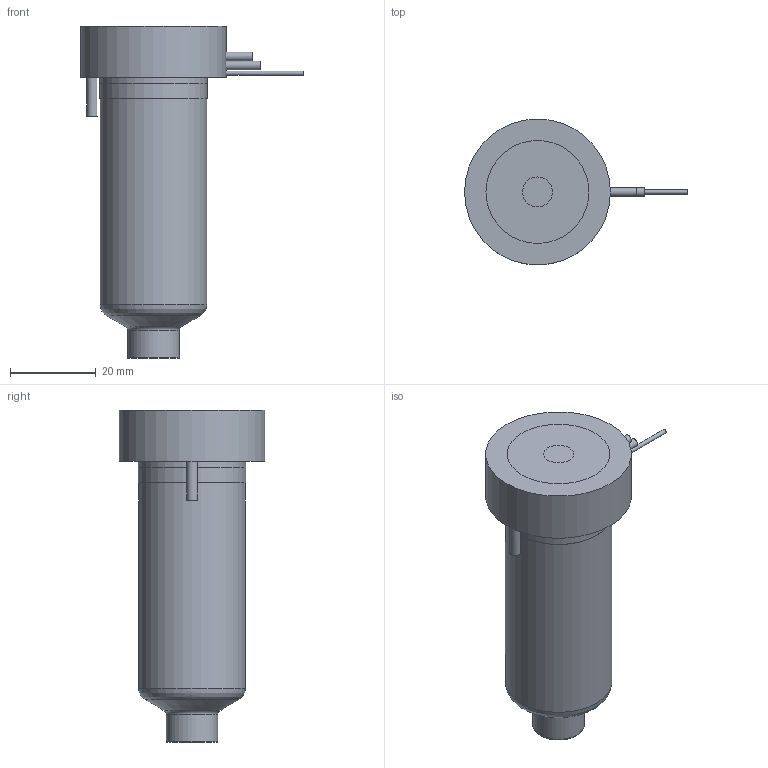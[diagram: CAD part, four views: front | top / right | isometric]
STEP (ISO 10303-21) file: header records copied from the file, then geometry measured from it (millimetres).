
FILE_DESCRIPTION(/* description */ (''),/* implementation_level */ '2;1');
FILE_NAME(/* name */ 'MXTBE16065_200C_a',/* time_stamp */ '2016-03-02T16:15:25+13:00',/* author */ (''),/* organization */ (''),/* preprocessor_version */ 'ST-DEVELOPER v9',/* originating_system */ 'UGS - NX 4.0',/* authorisation */ '');
FILE_SCHEMA (('CONFIG_CONTROL_DESIGN'));
Length unit declared in the file: millimetre
Products named in the file (1): matt3462e0xz
Bounding box: 51.95 x 34 x 77.37 mm (x, y, z)
Volume: 66591.3 mm3; surface area: 14698.3 mm2
Topology: 2 solids, 2 shells, 69 faces, 153 edges, 100 vertices
Faces by surface type: plane 30, cylinder 25, torus 7, cone 6, bspline 1
Full cylindrical faces by diameter (mm): 1 x3, 2 x2, 2.5 x1, 7 x1, 11.61 x1, 12.01 x2, 14.8 x1, 20.8 x1, 24.9 x1, 25 x2, 34 x1
Entity records: 2081 total; most frequent: CARTESIAN_POINT 608, DIRECTION 306, ORIENTED_EDGE 230, AXIS2_PLACEMENT_3D 137, EDGE_CURVE 115, EDGE_LOOP 110, VERTEX_POINT 89, ADVANCED_FACE 69
